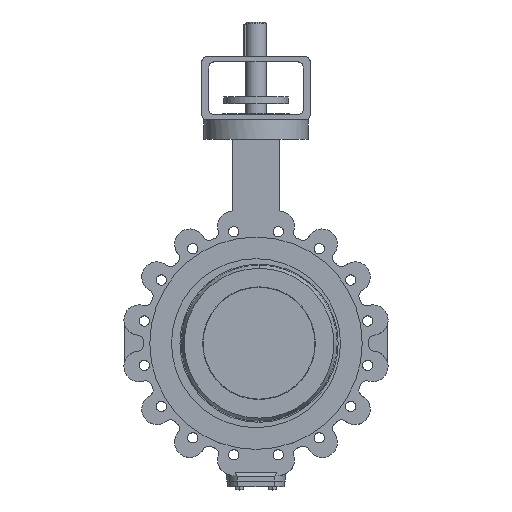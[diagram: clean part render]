
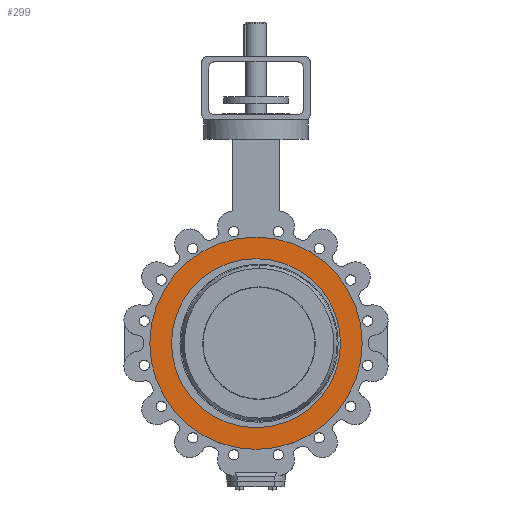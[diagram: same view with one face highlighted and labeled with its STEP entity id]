
A CAD part, top view. The second image highlights one B-rep face of the part: STEP entity #299.
In plain terms, the highlighted planar face has unit normal (0, 0, 1).
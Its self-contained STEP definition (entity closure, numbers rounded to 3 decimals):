
#299 = ADVANCED_FACE( '', ( #882, #883 ), #884, .T. );
#882 = FACE_BOUND( '', #1568, .T. );
#883 = FACE_OUTER_BOUND( '', #1569, .T. );
#884 = PLANE( '', #1570 );
#1568 = EDGE_LOOP( '', ( #3628, #3629, #3630 ) );
#1569 = EDGE_LOOP( '', ( #3631, #3632 ) );
#1570 = AXIS2_PLACEMENT_3D( '', #3633, #3634, #3635 );
#3628 = ORIENTED_EDGE( '', *, *, #4434, .F. );
#3629 = ORIENTED_EDGE( '', *, *, #4433, .F. );
#3630 = ORIENTED_EDGE( '', *, *, #5082, .F. );
#3631 = ORIENTED_EDGE( '', *, *, #4456, .T. );
#3632 = ORIENTED_EDGE( '', *, *, #5080, .T. );
#3633 = CARTESIAN_POINT( '', ( 0., 220., 70. ) );
#3634 = DIRECTION( '', ( 0., 0., 1. ) );
#3635 = DIRECTION( '', ( 0., 1., 0. ) );
#4433 = EDGE_CURVE( '', #5328, #5331, #5332, .T. );
#4434 = EDGE_CURVE( '', #5331, #5333, #5334, .T. );
#4456 = EDGE_CURVE( '', #5371, #5375, #5377, .T. );
#5080 = EDGE_CURVE( '', #5375, #5371, #6424, .T. );
#5082 = EDGE_CURVE( '', #5333, #5328, #6426, .T. );
#5328 = VERTEX_POINT( '', #6774 );
#5331 = VERTEX_POINT( '', #6778 );
#5332 = CIRCLE( '', #6779, 195. );
#5333 = VERTEX_POINT( '', #6780 );
#5334 = CIRCLE( '', #6781, 195. );
#5371 = VERTEX_POINT( '', #6827 );
#5375 = VERTEX_POINT( '', #6832 );
#5377 = CIRCLE( '', #6835, 245. );
#6424 = CIRCLE( '', #9009, 245. );
#6426 = CIRCLE( '', #9011, 195. );
#6774 = CARTESIAN_POINT( '', ( 195., 0., 70. ) );
#6778 = CARTESIAN_POINT( '', ( 0., 195., 70. ) );
#6779 = AXIS2_PLACEMENT_3D( '', #9507, #9508, #9509 );
#6780 = CARTESIAN_POINT( '', ( -195., 0., 70. ) );
#6781 = AXIS2_PLACEMENT_3D( '', #9510, #9511, #9512 );
#6827 = CARTESIAN_POINT( '', ( 0., 245., 70. ) );
#6832 = CARTESIAN_POINT( '', ( 0., -245., 70. ) );
#6835 = AXIS2_PLACEMENT_3D( '', #9554, #9555, #9556 );
#9009 = AXIS2_PLACEMENT_3D( '', #10752, #10753, #10754 );
#9011 = AXIS2_PLACEMENT_3D( '', #10758, #10759, #10760 );
#9507 = CARTESIAN_POINT( '', ( 0., 0., 70. ) );
#9508 = DIRECTION( '', ( 0., 0., 1. ) );
#9509 = DIRECTION( '', ( 0., 1., 0. ) );
#9510 = CARTESIAN_POINT( '', ( 0., 0., 70. ) );
#9511 = DIRECTION( '', ( 0., 0., 1. ) );
#9512 = DIRECTION( '', ( 0., 1., 0. ) );
#9554 = CARTESIAN_POINT( '', ( 0., 0., 70. ) );
#9555 = DIRECTION( '', ( 0., 0., 1. ) );
#9556 = DIRECTION( '', ( 0., 1., 0. ) );
#10752 = CARTESIAN_POINT( '', ( 0., 0., 70. ) );
#10753 = DIRECTION( '', ( 0., 0., 1. ) );
#10754 = DIRECTION( '', ( 0., 1., 0. ) );
#10758 = CARTESIAN_POINT( '', ( 0., 0., 70. ) );
#10759 = DIRECTION( '', ( 0., 0., 1. ) );
#10760 = DIRECTION( '', ( 0., 1., 0. ) );
